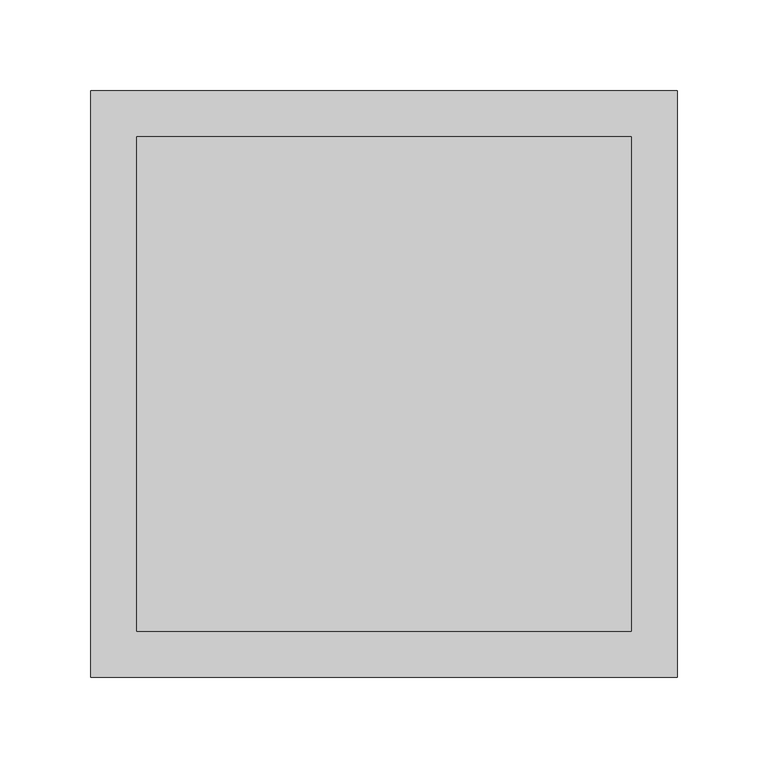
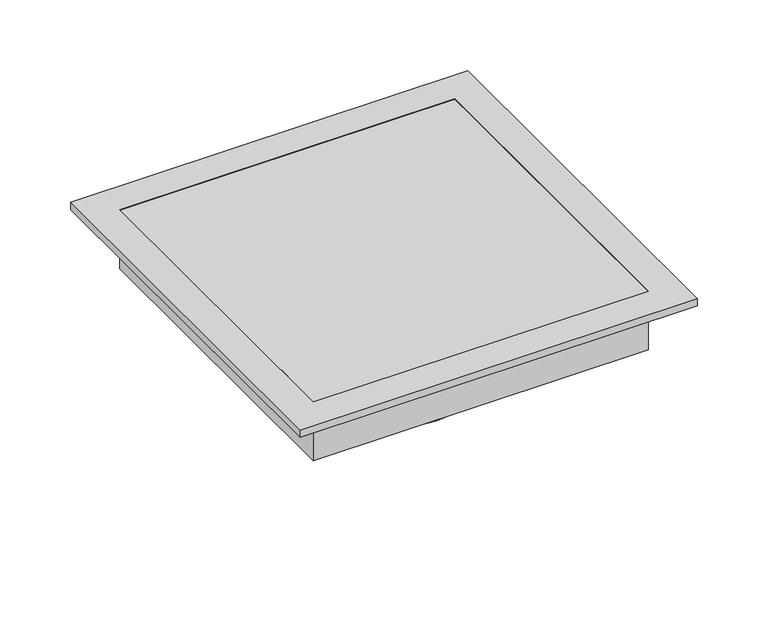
"""IFC4 building model written with IfcOpenShell, lengths in millimetres: air terminal geometry, Titus-Round_Neck_Supply_Diffuser-PCS_Surface_Mount : PCS AA-06_12x12."""

from ifc_helpers import new_model, si_unit, point, frame, origin, origin_2d, place, context, project, spatial, polyline, circle_curve, trimmed, segment, composite_curve, outline, extrude, faceted_brep, source, transform, mapped, element, save


def air_terminal_5d8b7fa0(model_context):
    return source(origin(), model_context, "Body", "SolidModel", [
        faceted_brep([(-161.925, 161.925, 0.0), (-161.925, 161.925, 6.35), (161.925, 161.925, 6.35), (161.925, 161.925, 0.0), (-136.525, 136.525, 6.35), (-136.525, 136.525, 5.55625), (136.525, 136.525, 5.55625), (136.525, 136.525, 6.35), (161.925, -161.925, 6.35), (161.925, -161.925, 0.0), (136.525, -136.525, 5.55625), (136.525, -136.525, 6.35), (-161.925, -161.925, 6.35), (-161.925, -161.925, 0.0), (-136.525, -136.525, 5.55625), (-136.525, -136.525, 6.35), (-161.13125, 161.13125, 0.0), (-161.13125, -161.13125, 0.0), (161.13125, -161.13125, 0.0), (161.13125, 161.13125, 0.0), (-161.13125, 161.13125, 5.55625), (161.13125, 161.13125, 5.55625), (161.13125, -161.13125, 5.55625), (-161.13125, -161.13125, 5.55625)], [[[0, 1, 2, 3]], [[4, 5, 6, 7]], [[3, 2, 8, 9]], [[7, 6, 10, 11]], [[9, 8, 12, 13]], [[11, 10, 14, 15]], [[1, 12, 8, 2], [7, 11, 15, 4]], [[13, 12, 1, 0]], [[3, 9, 13, 0], [16, 17, 18, 19]], [[15, 14, 5, 4]], [[20, 16, 19, 21]], [[21, 19, 18, 22]], [[22, 18, 17, 23]], [[23, 17, 16, 20]], [[21, 22, 23, 20], [5, 14, 10, 6]]]),
        faceted_brep([(136.525, 136.525, -44.45), (136.525, -136.525, -44.45), (-136.525, -136.525, -44.45), (-136.525, 136.525, -44.45), (-136.525, 136.525, -1.5875), (-136.525, 136.525, 4.7625), (136.525, 136.525, 4.7625), (136.525, 136.525, -1.5875), (-136.525, -136.525, -1.5875), (-136.525, -136.525, 4.7625), (136.525, -136.525, -1.5875), (136.525, -136.525, 4.7625), (149.225, 149.225, 5.55625), (-149.225, 149.225, 5.55625), (-149.225, -149.225, 5.55625), (149.225, -149.225, 5.55625), (149.225, 149.225, 4.7625), (149.225, -149.225, 4.7625), (-149.225, -149.225, 4.7625), (-149.225, 149.225, 4.7625)], [[[0, 1, 2, 3]], [[0, 3, 4, 5, 6, 7]], [[3, 2, 8, 9, 5, 4]], [[2, 1, 10, 11, 9, 8]], [[1, 0, 7, 6, 11, 10]], [[12, 13, 14, 15]], [[16, 17, 18, 19], [6, 5, 9, 11]], [[13, 12, 16, 19]], [[14, 13, 19, 18]], [[15, 14, 18, 17]], [[12, 15, 17, 16]]]),
        extrude(outline(polyline([(136.525, 136.525), (136.525, -136.525), (-136.525, -136.525), (-136.525, 136.525), (136.525, 136.525)])), frame((0.0, 0.0, 5.55625), z_axis=(0.0, 0.0, 1.0), x_axis=(1.0, 0.0, 0.0)), (0.0, 0.0, 1.0), 0.79375),
        extrude(outline(composite_curve([segment(trimmed(circle_curve(origin_2d(), 74.6125), [point((-74.6125, 0.0))], [point((74.6125, 0.0))], False, "CARTESIAN"), True, "CONTINUOUS"), segment(trimmed(circle_curve(origin_2d(), 74.6125), [point((74.6125, 0.0))], [point((-74.6125, 0.0))], False, "CARTESIAN"), True, "CONTINUOUS")], self_intersect=False), holes=[composite_curve([segment(trimmed(circle_curve(origin_2d(), 73.025), [point((-73.025, 0.0))], [point((73.025, 0.0))], True, "CARTESIAN"), True, "CONTINUOUS"), segment(trimmed(circle_curve(origin_2d(), 73.025), [point((73.025, 0.0))], [point((-73.025, 0.0))], True, "CARTESIAN"), True, "CONTINUOUS")], self_intersect=False)]), frame((0.0, 0.0, -95.25), z_axis=(0.0, 0.0, 1.0), x_axis=(1.0, 0.0, 0.0)), (0.0, 0.0, 1.0), 50.8),
    ])


if __name__ == "__main__":
    model = new_model("IFC4")
    model_context = context("Model", 3, world=origin())
    ifc_project = project(units=[si_unit("LENGTHUNIT", "METRE", prefix="MILLI")], contexts=[model_context])
    site = spatial("IfcSite", under=ifc_project)
    building = spatial("IfcBuilding", under=site)
    placement = place(None, origin())
    air_terminal_shape = air_terminal_5d8b7fa0(model_context)
    element("IfcAirTerminal", 1, ObjectType="Titus-Round_Neck_Supply_Diffuser-PCS_Surface_Mount : PCS AA-06_12x12", at=placement, inside=building, context=model_context, shape_type="MappedRepresentation", body=[
        mapped(air_terminal_shape, transform((0.0, 0.0, 0.0), x_axis=(1.0, 0.0, 0.0), y_axis=(0.0, 1.0, 0.0), z_axis=(0.0, 0.0, 1.0))),
    ])
    save(model, "model.ifc")
